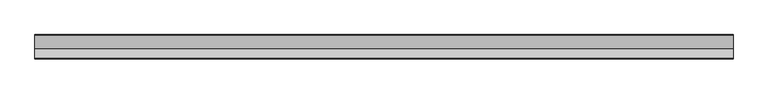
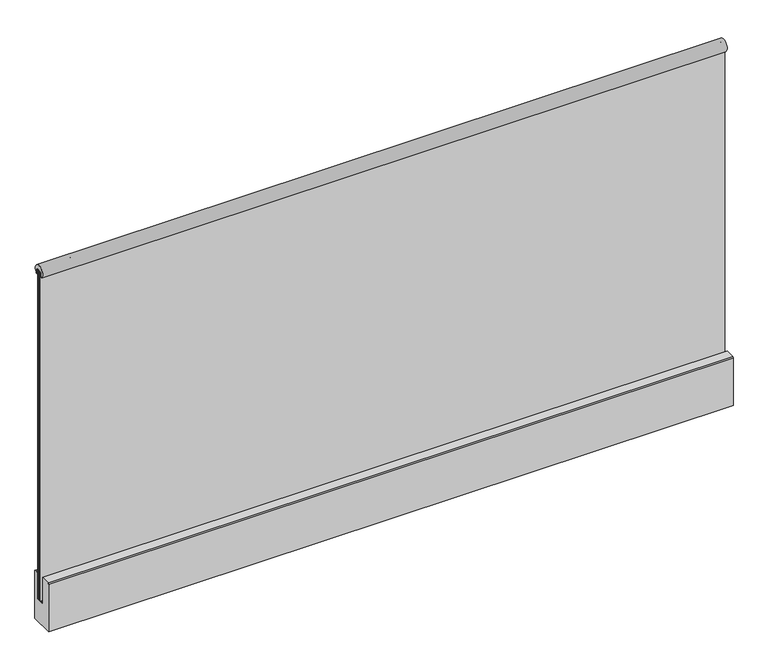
"""IFC4 building model written with IfcOpenShell, lengths in millimetres: railing geometry, Glass Railing (8+8) - Faraone - Ninfa 176 - Wall mounted - Elipse Handrail 42.4."""

from ifc_helpers import new_model, si_unit, point, frame, frame_2d, origin, place, context, project, spatial, polyline, circle_curve, trimmed, segment, composite_curve, outline, extrude, source, transform, mapped, element, save


def railing_8fe8532e(model_context):
    return source(origin(), model_context, "Body", "SweptSolid", [
        extrude(outline(composite_curve([segment(trimmed(circle_curve(frame_2d((-2352.5640825, 1085.2808397)), 21.2), [point((-2367.2763327, 1070.0168397))], [point((-2337.8518324, 1070.0168397))], False, "CARTESIAN"), True, "CONTINUOUS"), segment(polyline([(-2337.8518324, 1070.0168397), (-2340.6738425, 1070.0168397), (-2340.6738425, 1086.1344777)]), True, "CONTINUOUS"), segment(trimmed(circle_curve(frame_2d((-2344.0593648, 1086.1344777)), 3.3855223), [point((-2340.6738425, 1086.1344777))], [point((-2344.0593648, 1089.52))], True, "CARTESIAN"), True, "CONTINUOUS"), segment(polyline([(-2344.0593648, 1089.52), (-2361.0808764, 1089.52)]), True, "CONTINUOUS"), segment(trimmed(circle_curve(frame_2d((-2361.0808764, 1086.1465538)), 3.3734462), [point((-2361.0808764, 1089.52))], [point((-2364.4543225, 1086.1465538))], True, "CARTESIAN"), True, "CONTINUOUS"), segment(polyline([(-2364.4543225, 1086.1465538), (-2364.4543225, 1070.0168397), (-2367.2763327, 1070.0168397)]), True, "CONTINUOUS")], self_intersect=False)), frame((4362.6376845, 0.0, 0.0), z_axis=(1.0, 0.0, 0.0), x_axis=(0.0, 1.0, 0.0)), (0.0, 0.0, 1.0), 2320.0),
        extrude(outline(polyline([(-2344.1740825, -92.36), (-2360.9740825, -92.36), (-2360.9740825, 1087.54), (-2353.0740825, 1087.54), (-2353.0740825, -91.56), (-2352.0740825, -91.56), (-2352.0740825, 1087.54), (-2344.1740825, 1087.54), (-2344.1740825, -92.36)])), frame((4362.6376845, 0.0, 0.0), z_axis=(1.0, 0.0, 0.0), x_axis=(0.0, 1.0, 0.0)), (0.0, 0.0, 1.0), 2320.0),
        extrude(outline(composite_curve([segment(trimmed(circle_curve(frame_2d((-2331.681513, -3.1212327)), 3.1206002), [point((-2331.681513, -0.0006325))], [point((-2328.5609128, -3.1212327))], False, "CARTESIAN"), True, "CONTINUOUS"), segment(polyline([(-2328.5609128, -3.1212327), (-2328.5609128, -173.21), (-2408.9044462, -173.21), (-2408.9044462, -3.0621312)]), True, "CONTINUOUS"), segment(trimmed(circle_curve(frame_2d((-2405.8429475, -3.0621312)), 3.0614987), [point((-2408.9044462, -3.0621312))], [point((-2405.8429475, -0.0006325))], False, "CARTESIAN"), True, "CONTINUOUS"), segment(polyline([(-2405.8429475, -0.0006325), (-2373.3622116, -0.0006325), (-2373.3622116, -95.3393625), (-2341.5859535, -95.3393625), (-2341.5859535, -0.0006325), (-2331.681513, -0.0006325)]), True, "CONTINUOUS")], self_intersect=False)), frame((4362.6376845, 0.0, 0.0), z_axis=(1.0, 0.0, 0.0), x_axis=(0.0, 1.0, 0.0)), (0.0, 0.0, 1.0), 2320.0),
        extrude(outline(polyline([(-2341.5821678, -95.34), (-2365.0659973, -95.34), (-2365.0659973, -92.3609041), (-2344.3061158, -92.3609041), (-2344.3061158, -20.1108016), (-2341.5821678, -20.1108016), (-2341.5821678, -95.34)])), frame((4362.6376845, 0.0, 0.0), z_axis=(1.0, 0.0, 0.0), x_axis=(0.0, 1.0, 0.0)), (0.0, 0.0, 1.0), 2320.0),
    ])


if __name__ == "__main__":
    model = new_model("IFC4")
    model_context = context("Model", 3, world=origin())
    ifc_project = project(units=[si_unit("LENGTHUNIT", "METRE", prefix="MILLI")], contexts=[model_context])
    site = spatial("IfcSite", under=ifc_project)
    building = spatial("IfcBuilding", under=site)
    placement = place(None, origin())
    railing_shape = railing_8fe8532e(model_context)
    element("IfcRailing", 1, ObjectType="Glass Railing (8+8) - Faraone - Ninfa 176 - Wall mounted - Elipse Handrail 42.4", at=placement, inside=building, context=model_context, shape_type="MappedRepresentation", body=[
        mapped(railing_shape, transform((0.0, 0.0, 0.0), x_axis=(1.0, 0.0, 0.0), y_axis=(0.0, 1.0, 0.0), z_axis=(0.0, 0.0, 1.0))),
    ])
    save(model, "model.ifc")
